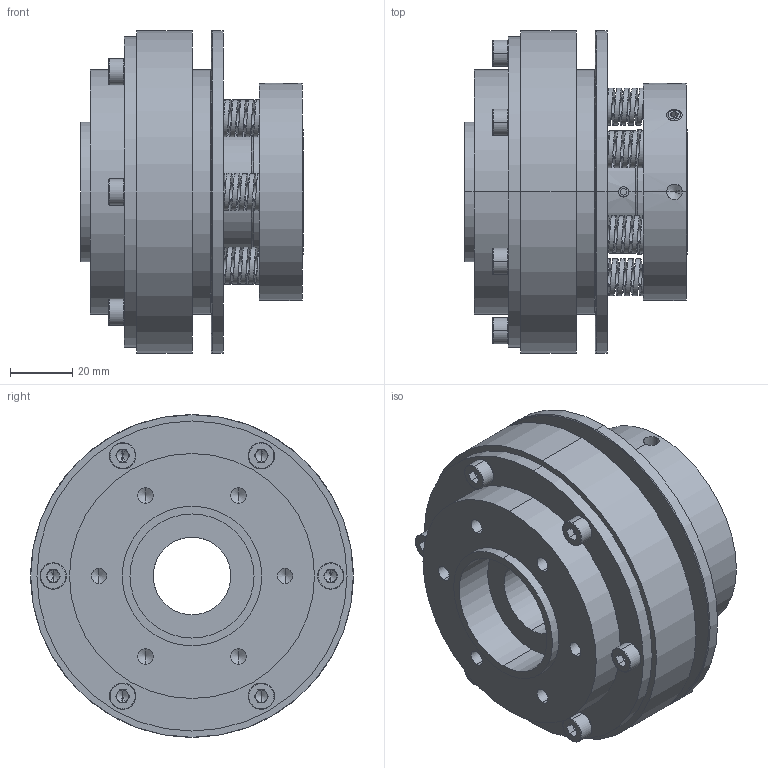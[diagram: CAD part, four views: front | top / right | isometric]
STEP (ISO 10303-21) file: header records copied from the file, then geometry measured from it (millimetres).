
FILE_DESCRIPTION (( 'STEP AP203' ), '1' );
FILE_NAME ('STL55F-L-TS7.5-N25.STEP', '2019-01-26T02:18:54', ( '' ), ( '' ), 'SwSTEP 2.0', 'SolidWorks 2015', '' );
FILE_SCHEMA (( 'CONFIG_CONTROL_DESIGN' ));
Length unit declared in the file: millimetre
Products named in the file (1): STL55F-L-TS7.5-N25
Bounding box: 71.75 x 104 x 104 mm (x, y, z)
Volume: 323289.8 mm3; surface area: 71605.4 mm2
Topology: 7 solids, 15 shells, 470 faces, 1115 edges, 674 vertices
Faces by surface type: plane 180, cylinder 176, bspline 66, cone 48
Entity records: 26762 total; most frequent: CARTESIAN_POINT 16180, DIRECTION 2205, ORIENTED_EDGE 2166, EDGE_CURVE 1083, AXIS2_PLACEMENT_3D 847, VERTEX_POINT 674, EDGE_LOOP 539, VECTOR 511
